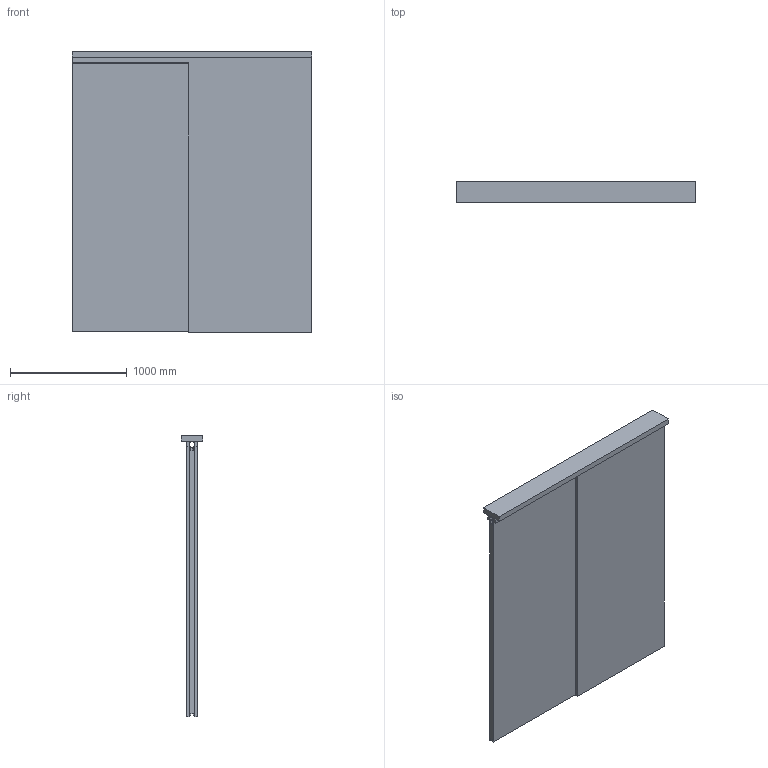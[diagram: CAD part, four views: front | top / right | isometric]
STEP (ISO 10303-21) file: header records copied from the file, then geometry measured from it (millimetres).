
FILE_DESCRIPTION(('STEP AP242'),'1');
FILE_NAME('OPO_65.083.01_volu_3d.stp','2026-02-23T17:27:03',(' '),(' '),'Spatial InterOp 3D',' ',' ');
FILE_SCHEMA(('AP242_MANAGED_MODEL_BASED_3D_ENGINEERING_MIM_LF {1 0 10303 442 1 1 4}'));
Length unit declared in the file: millimetre
Products named in the file (1): 1
Bounding box: 2050 x 188 x 2410 mm (x, y, z)
Volume: 213283594.2 mm3; surface area: 17479854.8 mm2
Topology: 6 solids, 6 shells, 210 faces, 566 edges, 376 vertices
Faces by surface type: plane 166, cylinder 44
Entity records: 8242 total; most frequent: CARTESIAN_POINT 1158, ORIENTED_EDGE 1132, DIRECTION 1086, EDGE_CURVE 566, LINE 478, VECTOR 478, VERTEX_POINT 376, AXIS2_PLACEMENT_3D 304
